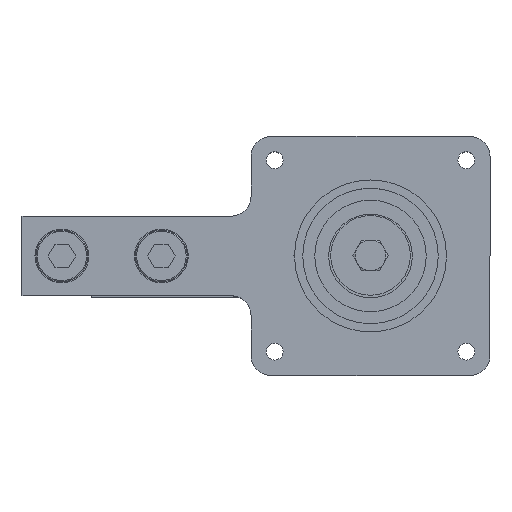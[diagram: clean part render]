
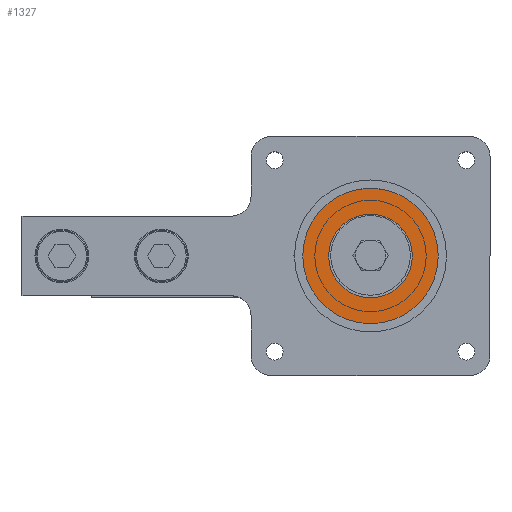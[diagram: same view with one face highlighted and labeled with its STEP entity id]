
A CAD part, top view. The second image highlights one B-rep face of the part: STEP entity #1327.
In plain terms, the highlighted planar face has unit normal (0, 0, 1).
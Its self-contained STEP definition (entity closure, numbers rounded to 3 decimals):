
#6 = CIRCLE ( 'NONE', #2864, 17. ) ;
#65 = EDGE_LOOP ( 'NONE', ( #8859, #448 ) ) ;
#99 = CARTESIAN_POINT ( 'NONE',  ( 0., 0., 5.5 ) ) ;
#240 = CIRCLE ( 'NONE', #2203, 17. ) ;
#406 = DIRECTION ( 'NONE',  ( 1., 0., 0. ) ) ;
#448 = ORIENTED_EDGE ( 'NONE', *, *, #4624, .T. ) ;
#665 = CARTESIAN_POINT ( 'NONE',  ( 17., 0., 5.5 ) ) ;
#1115 = CARTESIAN_POINT ( 'NONE',  ( 10.5, 0., 5.5 ) ) ;
#1327 = ADVANCED_FACE ( 'NONE', ( #8220, #5351 ), #1667, .F. ) ;
#1523 = CARTESIAN_POINT ( 'NONE',  ( 0., 0., 5.5 ) ) ;
#1667 = PLANE ( 'NONE',  #7776 ) ;
#1703 = CARTESIAN_POINT ( 'NONE',  ( -17., 0., 5.5 ) ) ;
#2203 = AXIS2_PLACEMENT_3D ( 'NONE', #1523, #8566, #10365 ) ;
#2864 = AXIS2_PLACEMENT_3D ( 'NONE', #10730, #6330, #9667 ) ;
#2916 = AXIS2_PLACEMENT_3D ( 'NONE', #8172, #10040, #406 ) ;
#3237 = VERTEX_POINT ( 'NONE', #1115 ) ;
#3584 = DIRECTION ( 'NONE',  ( 0., 0., 1. ) ) ;
#4624 = EDGE_CURVE ( 'NONE', #7997, #8674, #6, .T. ) ;
#4744 = CIRCLE ( 'NONE', #2916, 10.5 ) ;
#5351 = FACE_OUTER_BOUND ( 'NONE', #65, .T. ) ;
#5496 = VERTEX_POINT ( 'NONE', #8996 ) ;
#5785 = CIRCLE ( 'NONE', #6351, 10.5 ) ;
#6013 = ORIENTED_EDGE ( 'NONE', *, *, #8440, .F. ) ;
#6330 = DIRECTION ( 'NONE',  ( 0., 0., 1. ) ) ;
#6351 = AXIS2_PLACEMENT_3D ( 'NONE', #99, #3584, #7198 ) ;
#7184 = ORIENTED_EDGE ( 'NONE', *, *, #9716, .F. ) ;
#7198 = DIRECTION ( 'NONE',  ( 1., 0., 0. ) ) ;
#7328 = CARTESIAN_POINT ( 'NONE',  ( -17., 0., 5.5 ) ) ;
#7776 = AXIS2_PLACEMENT_3D ( 'NONE', #1703, #7867, #8703 ) ;
#7867 = DIRECTION ( 'NONE',  ( 0., 0., -1. ) ) ;
#7997 = VERTEX_POINT ( 'NONE', #7328 ) ;
#8172 = CARTESIAN_POINT ( 'NONE',  ( 0., 0., 5.5 ) ) ;
#8220 = FACE_BOUND ( 'NONE', #9899, .T. ) ;
#8440 = EDGE_CURVE ( 'NONE', #3237, #5496, #4744, .T. ) ;
#8566 = DIRECTION ( 'NONE',  ( 0., 0., 1. ) ) ;
#8674 = VERTEX_POINT ( 'NONE', #665 ) ;
#8703 = DIRECTION ( 'NONE',  ( -1., 0., 0. ) ) ;
#8859 = ORIENTED_EDGE ( 'NONE', *, *, #10172, .T. ) ;
#8996 = CARTESIAN_POINT ( 'NONE',  ( -10.5, 0., 5.5 ) ) ;
#9667 = DIRECTION ( 'NONE',  ( 1., 0., 0. ) ) ;
#9716 = EDGE_CURVE ( 'NONE', #5496, #3237, #5785, .T. ) ;
#9899 = EDGE_LOOP ( 'NONE', ( #6013, #7184 ) ) ;
#10040 = DIRECTION ( 'NONE',  ( 0., 0., 1. ) ) ;
#10172 = EDGE_CURVE ( 'NONE', #8674, #7997, #240, .T. ) ;
#10365 = DIRECTION ( 'NONE',  ( 1., 0., 0. ) ) ;
#10730 = CARTESIAN_POINT ( 'NONE',  ( 0., 0., 5.5 ) ) ;
